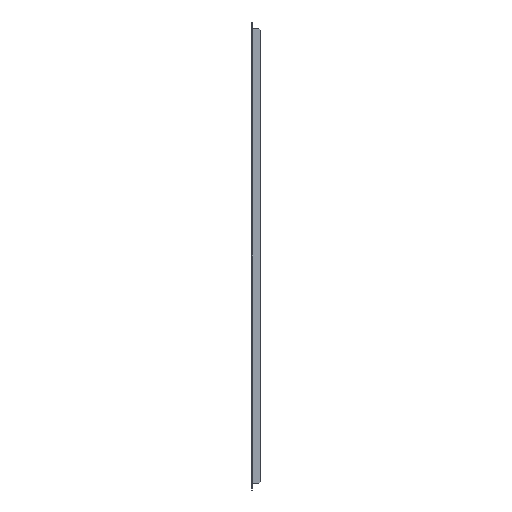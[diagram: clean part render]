
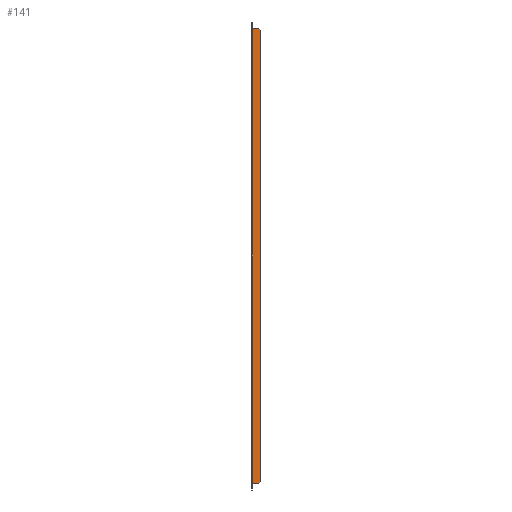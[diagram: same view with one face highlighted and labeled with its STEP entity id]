
A CAD part, left-side view. The second image highlights one B-rep face of the part: STEP entity #141.
In plain terms, the highlighted planar face has unit normal (-1, 0, 0).
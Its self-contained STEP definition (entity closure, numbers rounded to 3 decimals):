
#12 = AXIS2_PLACEMENT_3D ( 'NONE', #1173, #520, #1139 ) ;
#14 = LINE ( 'NONE', #95, #1602 ) ;
#56 = CARTESIAN_POINT ( 'NONE',  ( -79.5, -19., 492.45 ) ) ;
#83 = DIRECTION ( 'NONE',  ( 0., 0., -1. ) ) ;
#95 = CARTESIAN_POINT ( 'NONE',  ( -79.5, -2.4, 0. ) ) ;
#141 = ADVANCED_FACE ( 'NONE', ( #1024 ), #1164, .T. ) ;
#154 = CARTESIAN_POINT ( 'NONE',  ( -79.5, -255.725, -255.725 ) ) ;
#215 = CARTESIAN_POINT ( 'NONE',  ( -79.5, -2.4, 495.45 ) ) ;
#230 = VERTEX_POINT ( 'NONE', #403 ) ;
#242 = VERTEX_POINT ( 'NONE', #801 ) ;
#256 = VERTEX_POINT ( 'NONE', #431 ) ;
#266 = VECTOR ( 'NONE', #780, 1000. ) ;
#275 = VECTOR ( 'NONE', #1519, 1000. ) ;
#283 = EDGE_CURVE ( 'NONE', #230, #1220, #635, .T. ) ;
#315 = EDGE_CURVE ( 'NONE', #242, #256, #1377, .T. ) ;
#403 = CARTESIAN_POINT ( 'NONE',  ( -79.5, -16., 495.45 ) ) ;
#417 = LINE ( 'NONE', #1528, #275 ) ;
#431 = CARTESIAN_POINT ( 'NONE',  ( -79.5, -16., -495.45 ) ) ;
#460 = EDGE_LOOP ( 'NONE', ( #502, #968, #947, #1346, #629, #1336 ) ) ;
#502 = ORIENTED_EDGE ( 'NONE', *, *, #315, .T. ) ;
#517 = DIRECTION ( 'NONE',  ( 0., -0.707, 0.707 ) ) ;
#520 = DIRECTION ( 'NONE',  ( -1., 0., 0. ) ) ;
#629 = ORIENTED_EDGE ( 'NONE', *, *, #283, .T. ) ;
#635 = LINE ( 'NONE', #1383, #266 ) ;
#721 = DIRECTION ( 'NONE',  ( 0., 0., 1. ) ) ;
#725 = EDGE_CURVE ( 'NONE', #1202, #1417, #1537, .T. ) ;
#771 = CARTESIAN_POINT ( 'NONE',  ( -79.5, 0., -495.45 ) ) ;
#780 = DIRECTION ( 'NONE',  ( 0., 1., 0. ) ) ;
#801 = CARTESIAN_POINT ( 'NONE',  ( -79.5, -2.4, -495.45 ) ) ;
#947 = ORIENTED_EDGE ( 'NONE', *, *, #725, .T. ) ;
#968 = ORIENTED_EDGE ( 'NONE', *, *, #1107, .T. ) ;
#1007 = EDGE_CURVE ( 'NONE', #1220, #242, #14, .T. ) ;
#1024 = FACE_OUTER_BOUND ( 'NONE', #460, .T. ) ;
#1036 = CARTESIAN_POINT ( 'NONE',  ( -79.5, -19., -492.45 ) ) ;
#1107 = EDGE_CURVE ( 'NONE', #256, #1202, #1265, .T. ) ;
#1139 = DIRECTION ( 'NONE',  ( 0., -1., 0. ) ) ;
#1142 = EDGE_CURVE ( 'NONE', #1417, #230, #417, .T. ) ;
#1152 = VECTOR ( 'NONE', #721, 1000. ) ;
#1164 = PLANE ( 'NONE',  #12 ) ;
#1173 = CARTESIAN_POINT ( 'NONE',  ( -79.5, 0., 0. ) ) ;
#1202 = VERTEX_POINT ( 'NONE', #1036 ) ;
#1215 = CARTESIAN_POINT ( 'NONE',  ( -79.5, -19., 0. ) ) ;
#1220 = VERTEX_POINT ( 'NONE', #215 ) ;
#1238 = VECTOR ( 'NONE', #1271, 1000. ) ;
#1265 = LINE ( 'NONE', #154, #1550 ) ;
#1271 = DIRECTION ( 'NONE',  ( 0., -1., 0. ) ) ;
#1336 = ORIENTED_EDGE ( 'NONE', *, *, #1007, .T. ) ;
#1346 = ORIENTED_EDGE ( 'NONE', *, *, #1142, .T. ) ;
#1377 = LINE ( 'NONE', #771, #1238 ) ;
#1383 = CARTESIAN_POINT ( 'NONE',  ( -79.5, 0., 495.45 ) ) ;
#1417 = VERTEX_POINT ( 'NONE', #56 ) ;
#1519 = DIRECTION ( 'NONE',  ( 0., 0.707, 0.707 ) ) ;
#1528 = CARTESIAN_POINT ( 'NONE',  ( -79.5, -255.725, 255.725 ) ) ;
#1537 = LINE ( 'NONE', #1215, #1152 ) ;
#1550 = VECTOR ( 'NONE', #517, 1000. ) ;
#1602 = VECTOR ( 'NONE', #83, 1000. ) ;
